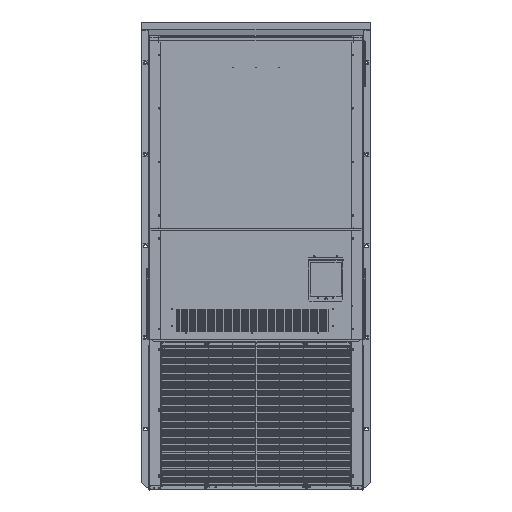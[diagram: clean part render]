
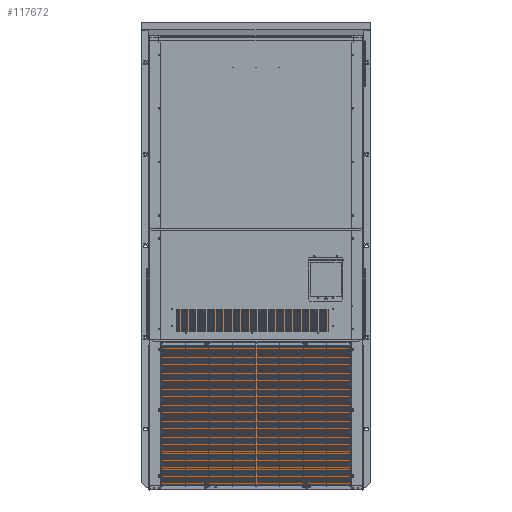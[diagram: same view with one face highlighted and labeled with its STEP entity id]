
A CAD part, top view. The second image highlights one B-rep face of the part: STEP entity #117672.
In plain terms, the highlighted planar face has unit normal (0, 0, 1).
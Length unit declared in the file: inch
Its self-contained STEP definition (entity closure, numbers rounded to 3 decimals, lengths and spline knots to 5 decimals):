
#4882 = PLANE ( 'NONE',  #125073 ) ;
#6193 = DIRECTION ( 'NONE',  ( 0., 0., -1. ) ) ;
#10896 = EDGE_CURVE ( 'NONE', #38013, #114302, #95248, .T. ) ;
#13852 = EDGE_CURVE ( 'NONE', #34732, #114302, #48120, .T. ) ;
#16362 = CARTESIAN_POINT ( 'NONE',  ( 0.015, 135.3664, -0.015 ) ) ;
#17282 = ORIENTED_EDGE ( 'NONE', *, *, #103931, .T. ) ;
#24823 = DIRECTION ( 'NONE',  ( 0., -1., 0. ) ) ;
#34732 = VERTEX_POINT ( 'NONE', #59300 ) ;
#38013 = VERTEX_POINT ( 'NONE', #117173 ) ;
#39934 = CARTESIAN_POINT ( 'NONE',  ( 41.735, 0., -0.015 ) ) ;
#44460 = VERTEX_POINT ( 'NONE', #121219 ) ;
#47479 = VECTOR ( 'NONE', #24823, 39.37008 ) ;
#48120 = LINE ( 'NONE', #110413, #68502 ) ;
#53023 = LINE ( 'NONE', #105818, #95847 ) ;
#53053 = ORIENTED_EDGE ( 'NONE', *, *, #10896, .F. ) ;
#59300 = CARTESIAN_POINT ( 'NONE',  ( 0.015, 0., -0.015 ) ) ;
#65822 = FACE_OUTER_BOUND ( 'NONE', #88224, .T. ) ;
#68502 = VECTOR ( 'NONE', #126920, 39.37008 ) ;
#68766 = CARTESIAN_POINT ( 'NONE',  ( 41.735, 135.3664, -0.015 ) ) ;
#86541 = ORIENTED_EDGE ( 'NONE', *, *, #110803, .T. ) ;
#88224 = EDGE_LOOP ( 'NONE', ( #53053, #17282, #86541, #110927 ) ) ;
#93075 = CARTESIAN_POINT ( 'NONE',  ( 0.015, 135.3664, -0.015 ) ) ;
#95248 = LINE ( 'NONE', #68766, #47479 ) ;
#95847 = VECTOR ( 'NONE', #96317, 39.37008 ) ;
#96317 = DIRECTION ( 'NONE',  ( -1., 0., 0. ) ) ;
#103931 = EDGE_CURVE ( 'NONE', #38013, #44460, #53023, .T. ) ;
#105818 = CARTESIAN_POINT ( 'NONE',  ( 0.015, 88.302, -0.015 ) ) ;
#110413 = CARTESIAN_POINT ( 'NONE',  ( 0.015, 0., -0.015 ) ) ;
#110803 = EDGE_CURVE ( 'NONE', #44460, #34732, #131725, .T. ) ;
#110927 = ORIENTED_EDGE ( 'NONE', *, *, #13852, .T. ) ;
#114302 = VERTEX_POINT ( 'NONE', #39934 ) ;
#117173 = CARTESIAN_POINT ( 'NONE',  ( 41.735, 88.302, -0.015 ) ) ;
#117672 = ADVANCED_FACE ( 'NONE', ( #65822 ), #4882, .F. ) ;
#118623 = DIRECTION ( 'NONE',  ( -1., 0., 0. ) ) ;
#121219 = CARTESIAN_POINT ( 'NONE',  ( 0.015, 88.302, -0.015 ) ) ;
#122905 = DIRECTION ( 'NONE',  ( 0., -1., 0. ) ) ;
#124390 = VECTOR ( 'NONE', #122905, 39.37008 ) ;
#125073 = AXIS2_PLACEMENT_3D ( 'NONE', #16362, #6193, #118623 ) ;
#126920 = DIRECTION ( 'NONE',  ( 1., 0., 0. ) ) ;
#131725 = LINE ( 'NONE', #93075, #124390 ) ;
